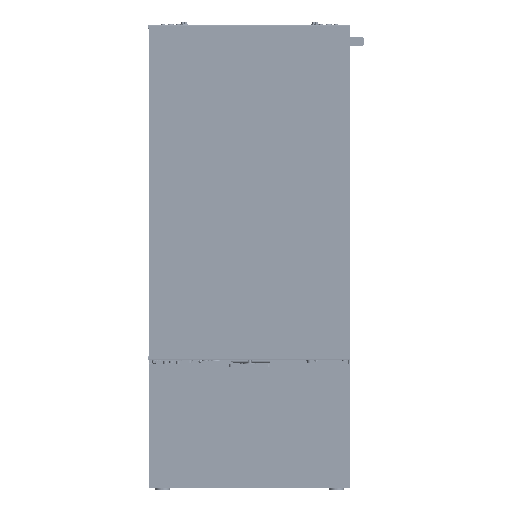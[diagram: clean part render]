
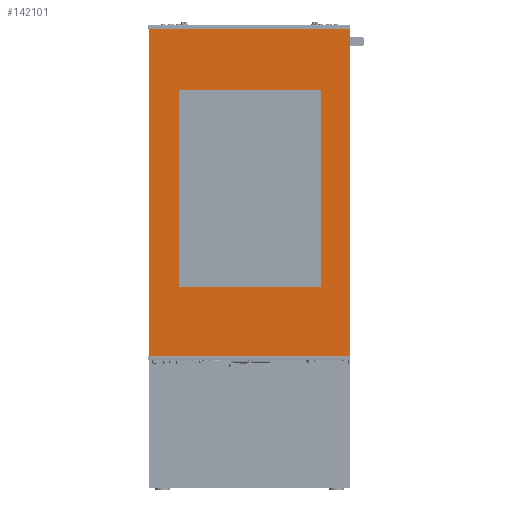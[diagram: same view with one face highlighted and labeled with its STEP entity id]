
A CAD part, front view. The second image highlights one B-rep face of the part: STEP entity #142101.
In plain terms, the highlighted planar face has unit normal (0, -1, 0) as drawn and (0, 0, 1) by its records, which use the part's own axes.
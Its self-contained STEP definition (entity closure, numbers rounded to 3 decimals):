
#5629=FACE_BOUND('',#23067,.T.);
#8443=PLANE('',#156469);
#14035=FACE_OUTER_BOUND('',#23066,.T.);
#23066=EDGE_LOOP('',(#110910,#110911,#110912,#110913));
#23067=EDGE_LOOP('',(#110914,#110915,#110916,#110917));
#34730=LINE('',#226116,#48073);
#34740=LINE('',#226135,#48083);
#34741=LINE('',#226139,#48084);
#34742=LINE('',#226141,#48085);
#34743=LINE('',#226143,#48086);
#34744=LINE('',#226144,#48087);
#34745=LINE('',#226146,#48088);
#34746=LINE('',#226147,#48089);
#48073=VECTOR('',#181518,10.);
#48083=VECTOR('',#181532,10.);
#48084=VECTOR('',#181535,10.);
#48085=VECTOR('',#181536,10.);
#48086=VECTOR('',#181537,10.);
#48087=VECTOR('',#181538,10.);
#48088=VECTOR('',#181539,10.);
#48089=VECTOR('',#181540,10.);
#67001=VERTEX_POINT('',#226113);
#67002=VERTEX_POINT('',#226115);
#67009=VERTEX_POINT('',#226133);
#67010=VERTEX_POINT('',#226137);
#67011=VERTEX_POINT('',#226138);
#67012=VERTEX_POINT('',#226140);
#67013=VERTEX_POINT('',#226142);
#67014=VERTEX_POINT('',#226145);
#82887=EDGE_CURVE('',#67001,#67002,#34730,.T.);
#82897=EDGE_CURVE('',#67009,#67001,#34740,.T.);
#82898=EDGE_CURVE('',#67010,#67011,#34741,.T.);
#82899=EDGE_CURVE('',#67012,#67010,#34742,.T.);
#82900=EDGE_CURVE('',#67013,#67012,#34743,.T.);
#82901=EDGE_CURVE('',#67011,#67013,#34744,.T.);
#82902=EDGE_CURVE('',#67014,#67009,#34745,.T.);
#82903=EDGE_CURVE('',#67002,#67014,#34746,.T.);
#110910=ORIENTED_EDGE('',*,*,#82898,.F.);
#110911=ORIENTED_EDGE('',*,*,#82899,.F.);
#110912=ORIENTED_EDGE('',*,*,#82900,.F.);
#110913=ORIENTED_EDGE('',*,*,#82901,.F.);
#110914=ORIENTED_EDGE('',*,*,#82902,.F.);
#110915=ORIENTED_EDGE('',*,*,#82903,.F.);
#110916=ORIENTED_EDGE('',*,*,#82887,.F.);
#110917=ORIENTED_EDGE('',*,*,#82897,.F.);
#142101=ADVANCED_FACE('',(#14035,#5629),#8443,.T.);
#156469=AXIS2_PLACEMENT_3D('',#226136,#181533,#181534);
#181518=DIRECTION('',(1.,0.,0.));
#181532=DIRECTION('',(0.,-1.,0.));
#181533=DIRECTION('center_axis',(0.,0.,1.));
#181534=DIRECTION('ref_axis',(1.,0.,0.));
#181535=DIRECTION('',(0.,1.,0.));
#181536=DIRECTION('',(-1.,0.,0.));
#181537=DIRECTION('',(0.,-1.,0.));
#181538=DIRECTION('',(1.,0.,0.));
#181539=DIRECTION('',(-1.,0.,0.));
#181540=DIRECTION('',(0.,1.,0.));
#226113=CARTESIAN_POINT('',(-205.,-155.,5.));
#226115=CARTESIAN_POINT('',(225.,-155.,5.));
#226116=CARTESIAN_POINT('',(112.5,-155.,5.));
#226133=CARTESIAN_POINT('',(-205.,155.,5.));
#226135=CARTESIAN_POINT('',(-205.,-77.5,5.));
#226136=CARTESIAN_POINT('Origin',(0.,0.,
5.));
#226137=CARTESIAN_POINT('',(-365.,-220.,5.));
#226138=CARTESIAN_POINT('',(-365.,220.,5.));
#226139=CARTESIAN_POINT('',(-365.,220.,5.));
#226140=CARTESIAN_POINT('',(365.,-220.,5.));
#226141=CARTESIAN_POINT('',(-365.,-220.,5.));
#226142=CARTESIAN_POINT('',(365.,220.,5.));
#226143=CARTESIAN_POINT('',(365.,-220.,5.));
#226144=CARTESIAN_POINT('',(365.,220.,5.));
#226145=CARTESIAN_POINT('',(225.,155.,5.));
#226146=CARTESIAN_POINT('',(-102.5,155.,5.));
#226147=CARTESIAN_POINT('',(225.,77.5,5.));
